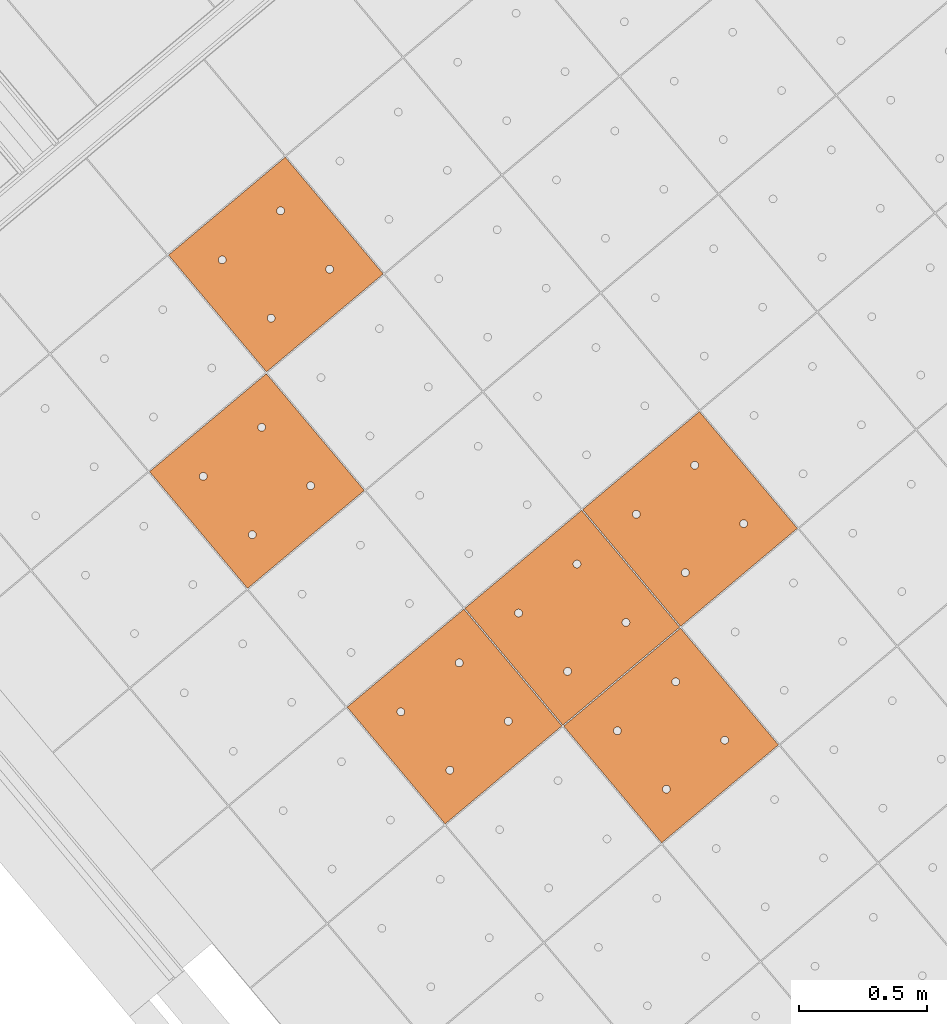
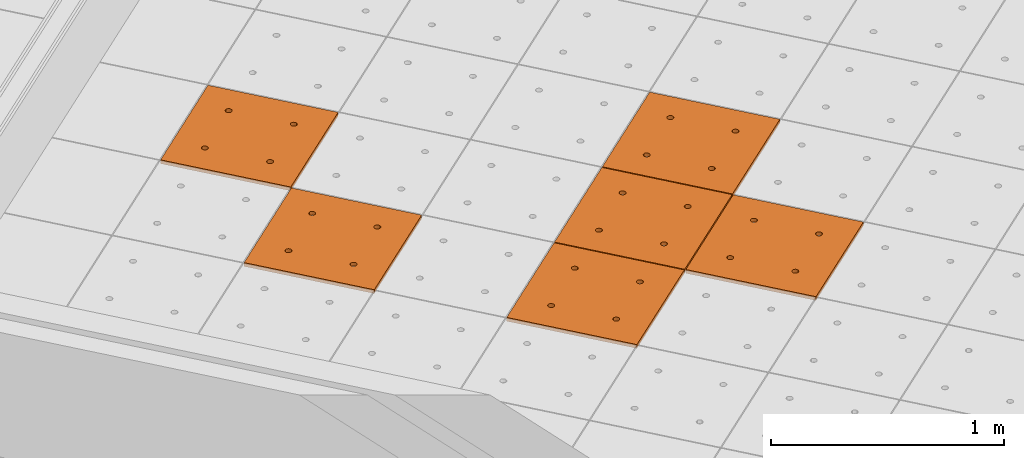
# One storey, part 129 of 338: 6 proxies, 1 element without a shape of its own.
"""IFC2X3 building model written with IfcOpenShell, lengths in millimetres."""

from ifc_helpers import new_model, entity, si_unit, converted_unit, derived_unit, money_unit, direction, frame, origin_with_axes, place, context, subcontext, project, spatial, faceted_brep, source, transform, mapped, material, type_object, type_shapes, element, aggregate, save


model = new_model("IFC2X3")

# Units and contexts
model_context = context("Model", 3, precision=0.01, world=origin_with_axes(), true_north=direction((0.0, 1.0)))
plan_context = context("Plan", 3, precision=0.01, world=origin_with_axes(), true_north=direction((0.0, 1.0)))
body_context = subcontext(model_context, "Body", "Model", "MODEL_VIEW")
ifc_project = project(units=[si_unit("LENGTHUNIT", "METRE", prefix="MILLI"), si_unit("AREAUNIT", "SQUARE_METRE"), si_unit("VOLUMEUNIT", "CUBIC_METRE"), converted_unit("PLANEANGLEUNIT", "DEGREE", entity("IfcPlaneAngleMeasure", 0.0174532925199), si_unit("PLANEANGLEUNIT", "RADIAN"), dimensions=[0, 0, 0, 0, 0, 0, 0]), money_unit("EUR"), converted_unit("TIMEUNIT", "Year", entity("IfcTimeMeasure", 31556926.0), si_unit("TIMEUNIT", "SECOND"), dimensions=[0, 0, 1, 0, 0, 0, 0]), si_unit("MASSUNIT", "GRAM", prefix="KILO"), si_unit("THERMODYNAMICTEMPERATUREUNIT", "DEGREE_CELSIUS"), si_unit("LUMINOUSINTENSITYUNIT", "LUMEN"), si_unit("ENERGYUNIT", "JOULE", prefix="MEGA"), derived_unit("THERMALCONDUCTANCEUNIT", [(si_unit("POWERUNIT", "WATT"), 1), (si_unit("LENGTHUNIT", "METRE"), -1), (si_unit("THERMODYNAMICTEMPERATUREUNIT", "KELVIN"), -1)]), derived_unit("SPECIFICHEATCAPACITYUNIT", [(si_unit("ENERGYUNIT", "JOULE"), 1), (si_unit("MASSUNIT", "GRAM", prefix="KILO"), -1), (si_unit("THERMODYNAMICTEMPERATUREUNIT", "KELVIN"), -1)]), derived_unit("MASSDENSITYUNIT", [(si_unit("MASSUNIT", "GRAM", prefix="KILO"), 1), (si_unit("VOLUMEUNIT", "CUBIC_METRE"), -1)])], contexts=[model_context, plan_context])

# Site, building, storey
site_placement = place(None, origin_with_axes())
site = spatial("IfcSite", under=ifc_project, at=site_placement, Name="Fortuinstraat Woensdrecht", CompositionType="ELEMENT")
building_placement = place(site_placement, origin_with_axes())
building = spatial("IfcBuilding", under=site, at=building_placement, Name="IKC Fortuna", CompositionType="ELEMENT")
storey_placement = place(building_placement, origin_with_axes())
storey = spatial("IfcBuildingStorey", under=building, at=storey_placement, Name="00 begane grond", CompositionType="ELEMENT", Elevation=0.0)

# Covering, proxies
covering_type = type_object("IfcCoveringType", Name="Curtain Wall Type", PredefinedType="CEILING")
covering_placement = place(storey_placement, frame((15150.6418133, -6622.13986243, 4660.0), z_axis=(0.0, 0.0, 1.0), x_axis=(1.0, 0.0, 0.0)))
covering = element("IfcCovering", 1, at=covering_placement, inside=storey, type_object=covering_type, Name="45_Plafondafwerking_P01", PredefinedType="CEILING")
ifc_material = material(Name="Gipsplaat")
building_element_proxy_type = type_object("IfcBuildingElementProxyType", Name="Main Panel 600 x 600 x 20", PredefinedType="NOTDEFINED")
shared_shape = source(origin_with_axes(), body_context, "Body", "Brep", [
    faceted_brep([(2.49999999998, 2.49999999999, -10.0), (300.0, 2.49999999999, -10.0), (300.0, 2.49999999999, 10.0), (2.49999999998, 2.49999999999, 10.0), (2.49999999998, 300.0, -10.0), (2.49999999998, 597.5, -10.0), (300.0, 597.5, -10.0), (597.5, 597.5, -10.0), (597.5, 300.0, -10.0), (597.5, 2.49999999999, -10.0), (166.25, 450.06232995, -10.0), (165.79423259, 452.64711538, -10.0), (164.896546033, 455.11348892, -10.0), (163.58421608, 457.38651108, -10.0), (161.897117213, 459.39711721, -10.0), (159.886511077, 461.08421608, -10.0), (157.613488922, 462.39654603, -10.0), (155.147115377, 463.29423259, -10.0), (152.562329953, 463.75, -10.0), (149.937670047, 463.75, -10.0), (147.352884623, 463.29423259, -10.0), (144.886511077, 462.39654603, -10.0), (142.613488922, 461.08421608, -10.0), (140.602882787, 459.39711721, -10.0), (138.91578392, 457.38651108, -10.0), (137.603453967, 455.11348892, -10.0), (136.705767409, 452.64711538, -10.0), (136.25, 450.06232995, -10.0), (136.25, 448.75, -10.0), (136.25, 447.43767005, -10.0), (136.705767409, 444.85288462, -10.0), (137.603453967, 442.38651108, -10.0), (138.91578392, 440.11348892, -10.0), (140.602882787, 438.10288279, -10.0), (142.613488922, 436.41578392, -10.0), (144.886511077, 435.10345397, -10.0), (147.352884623, 434.20576741, -10.0), (149.937670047, 433.75, -10.0), (152.562329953, 433.75, -10.0), (155.147115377, 434.20576741, -10.0), (157.613488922, 435.10345397, -10.0), (159.886511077, 436.41578392, -10.0), (161.897117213, 438.10288279, -10.0), (163.58421608, 440.11348892, -10.0), (164.896546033, 442.38651108, -10.0), (165.79423259, 444.85288462, -10.0), (166.25, 447.43767005, -10.0), (463.75, 450.06232995, -10.0), (463.29423259, 452.64711538, -10.0), (462.396546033, 455.11348892, -10.0), (461.08421608, 457.38651108, -10.0), (459.397117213, 459.39711721, -10.0), (457.386511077, 461.08421608, -10.0), (455.113488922, 462.39654603, -10.0), (452.647115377, 463.29423259, -10.0), (450.062329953, 463.75, -10.0), (447.437670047, 463.75, -10.0), (444.852884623, 463.29423259, -10.0), (442.386511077, 462.39654603, -10.0), (440.113488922, 461.08421608, -10.0), (438.102882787, 459.39711721, -10.0), (436.41578392, 457.38651108, -10.0), (435.103453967, 455.11348892, -10.0), (434.205767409, 452.64711538, -10.0), (433.75, 450.06232995, -10.0), (433.75, 448.75, -10.0), (433.75, 447.43767005, -10.0), (434.205767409, 444.85288462, -10.0), (435.103453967, 442.38651108, -10.0), (436.41578392, 440.11348892, -10.0), (438.102882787, 438.10288279, -10.0), (440.113488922, 436.41578392, -10.0), (442.386511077, 435.10345397, -10.0), (444.852884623, 434.20576741, -10.0), (447.437670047, 433.75, -10.0), (450.062329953, 433.75, -10.0), (452.647115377, 434.20576741, -10.0), (455.113488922, 435.10345397, -10.0), (457.386511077, 436.41578392, -10.0), (459.397117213, 438.10288279, -10.0), (461.08421608, 440.11348892, -10.0), (462.396546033, 442.38651108, -10.0), (463.29423259, 444.85288462, -10.0), (463.75, 447.43767005, -10.0), (463.75, 152.56232995, -10.0), (463.29423259, 155.14711538, -10.0), (462.396546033, 157.61348892, -10.0), (461.08421608, 159.88651108, -10.0), (459.397117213, 161.89711721, -10.0), (457.386511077, 163.58421608, -10.0), (455.113488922, 164.89654603, -10.0), (452.647115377, 165.79423259, -10.0), (450.062329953, 166.25, -10.0), (447.437670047, 166.25, -10.0), (444.852884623, 165.79423259, -10.0), (442.386511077, 164.89654603, -10.0), (440.113488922, 163.58421608, -10.0), (438.102882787, 161.89711721, -10.0), (436.41578392, 159.88651108, -10.0), (435.103453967, 157.61348892, -10.0), (434.205767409, 155.14711538, -10.0), (433.75, 152.56232995, -10.0), (433.75, 151.25, -10.0), (433.75, 149.93767005, -10.0), (434.205767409, 147.35288462, -10.0), (435.103453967, 144.88651108, -10.0), (436.41578392, 142.61348892, -10.0), (438.102882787, 140.60288279, -10.0), (440.113488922, 138.91578392, -10.0), (442.386511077, 137.60345397, -10.0), (444.852884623, 136.70576741, -10.0), (447.437670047, 136.25, -10.0), (450.062329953, 136.25, -10.0), (452.647115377, 136.70576741, -10.0), (455.113488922, 137.60345397, -10.0), (457.386511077, 138.91578392, -10.0), (459.397117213, 140.60288279, -10.0), (461.08421608, 142.61348892, -10.0), (462.396546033, 144.88651108, -10.0), (463.29423259, 147.35288462, -10.0), (463.75, 149.93767005, -10.0), (166.25, 152.56232995, -10.0), (165.79423259, 155.14711538, -10.0), (164.896546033, 157.61348892, -10.0), (163.58421608, 159.88651108, -10.0), (161.897117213, 161.89711721, -10.0), (159.886511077, 163.58421608, -10.0), (157.613488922, 164.89654603, -10.0), (155.147115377, 165.79423259, -10.0), (152.562329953, 166.25, -10.0), (149.937670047, 166.25, -10.0), (147.352884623, 165.79423259, -10.0), (144.886511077, 164.89654603, -10.0), (142.613488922, 163.58421608, -10.0), (140.602882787, 161.89711721, -10.0), (138.91578392, 159.88651108, -10.0), (137.603453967, 157.61348892, -10.0), (136.705767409, 155.14711538, -10.0), (136.25, 152.56232995, -10.0), (136.25, 151.25, -10.0), (136.25, 149.93767005, -10.0), (136.705767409, 147.35288462, -10.0), (137.603453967, 144.88651108, -10.0), (138.91578392, 142.61348892, -10.0), (140.602882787, 140.60288279, -10.0), (142.613488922, 138.91578392, -10.0), (144.886511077, 137.60345397, -10.0), (147.352884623, 136.70576741, -10.0), (149.937670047, 136.25, -10.0), (152.562329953, 136.25, -10.0), (155.147115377, 136.70576741, -10.0), (157.613488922, 137.60345397, -10.0), (159.886511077, 138.91578392, -10.0), (161.897117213, 140.60288279, -10.0), (163.58421608, 142.61348892, -10.0), (164.896546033, 144.88651108, -10.0), (165.79423259, 147.35288462, -10.0), (166.25, 149.93767005, -10.0), (597.5, 2.49999999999, 10.0), (597.5, 300.0, 10.0), (597.5, 597.5, 10.0), (300.0, 597.5, 10.0), (2.49999999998, 597.5, 10.0), (2.49999999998, 300.0, 10.0), (166.25, 450.06232995, 10.0), (166.25, 447.43767005, 10.0), (165.79423259, 444.85288462, 10.0), (164.896546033, 442.38651108, 10.0), (163.58421608, 440.11348892, 10.0), (161.897117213, 438.10288279, 10.0), (159.886511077, 436.41578392, 10.0), (157.613488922, 435.10345397, 10.0), (155.147115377, 434.20576741, 10.0), (152.562329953, 433.75, 10.0), (149.937670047, 433.75, 10.0), (147.352884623, 434.20576741, 10.0), (144.886511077, 435.10345397, 10.0), (142.613488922, 436.41578392, 10.0), (140.602882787, 438.10288279, 10.0), (138.91578392, 440.11348892, 10.0), (137.603453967, 442.38651108, 10.0), (136.705767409, 444.85288462, 10.0), (136.25, 447.43767005, 10.0), (136.25, 448.75, 10.0), (136.25, 450.06232995, 10.0), (136.705767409, 452.64711538, 10.0), (137.603453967, 455.11348892, 10.0), (138.91578392, 457.38651108, 10.0), (140.602882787, 459.39711721, 10.0), (142.613488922, 461.08421608, 10.0), (144.886511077, 462.39654603, 10.0), (147.352884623, 463.29423259, 10.0), (149.937670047, 463.75, 10.0), (152.562329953, 463.75, 10.0), (155.147115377, 463.29423259, 10.0), (157.613488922, 462.39654603, 10.0), (159.886511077, 461.08421608, 10.0), (161.897117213, 459.39711721, 10.0), (163.58421608, 457.38651108, 10.0), (164.896546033, 455.11348892, 10.0), (165.79423259, 452.64711538, 10.0), (463.75, 450.06232995, 10.0), (463.75, 447.43767005, 10.0), (463.29423259, 444.85288462, 10.0), (462.396546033, 442.38651108, 10.0), (461.08421608, 440.11348892, 10.0), (459.397117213, 438.10288279, 10.0), (457.386511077, 436.41578392, 10.0), (455.113488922, 435.10345397, 10.0), (452.647115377, 434.20576741, 10.0), (450.062329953, 433.75, 10.0), (447.437670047, 433.75, 10.0), (444.852884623, 434.20576741, 10.0), (442.386511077, 435.10345397, 10.0), (440.113488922, 436.41578392, 10.0), (438.102882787, 438.10288279, 10.0), (436.41578392, 440.11348892, 10.0), (435.103453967, 442.38651108, 10.0), (434.205767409, 444.85288462, 10.0), (433.75, 447.43767005, 10.0), (433.75, 448.75, 10.0), (433.75, 450.06232995, 10.0), (434.205767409, 452.64711538, 10.0), (435.103453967, 455.11348892, 10.0), (436.41578392, 457.38651108, 10.0), (438.102882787, 459.39711721, 10.0), (440.113488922, 461.08421608, 10.0), (442.386511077, 462.39654603, 10.0), (444.852884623, 463.29423259, 10.0), (447.437670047, 463.75, 10.0), (450.062329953, 463.75, 10.0), (452.647115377, 463.29423259, 10.0), (455.113488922, 462.39654603, 10.0), (457.386511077, 461.08421608, 10.0), (459.397117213, 459.39711721, 10.0), (461.08421608, 457.38651108, 10.0), (462.396546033, 455.11348892, 10.0), (463.29423259, 452.64711538, 10.0), (463.75, 152.56232995, 10.0), (463.75, 149.93767005, 10.0), (463.29423259, 147.35288462, 10.0), (462.396546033, 144.88651108, 10.0), (461.08421608, 142.61348892, 10.0), (459.397117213, 140.60288279, 10.0), (457.386511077, 138.91578392, 10.0), (455.113488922, 137.60345397, 10.0), (452.647115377, 136.70576741, 10.0), (450.062329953, 136.25, 10.0), (447.437670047, 136.25, 10.0), (444.852884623, 136.70576741, 10.0), (442.386511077, 137.60345397, 10.0), (440.113488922, 138.91578392, 10.0), (438.102882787, 140.60288279, 10.0), (436.41578392, 142.61348892, 10.0), (435.103453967, 144.88651108, 10.0), (434.205767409, 147.35288462, 10.0), (433.75, 149.93767005, 10.0), (433.75, 151.25, 10.0), (433.75, 152.56232995, 10.0), (434.205767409, 155.14711538, 10.0), (435.103453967, 157.61348892, 10.0), (436.41578392, 159.88651108, 10.0), (438.102882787, 161.89711721, 10.0), (440.113488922, 163.58421608, 10.0), (442.386511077, 164.89654603, 10.0), (444.852884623, 165.79423259, 10.0), (447.437670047, 166.25, 10.0), (450.062329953, 166.25, 10.0), (452.647115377, 165.79423259, 10.0), (455.113488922, 164.89654603, 10.0), (457.386511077, 163.58421608, 10.0), (459.397117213, 161.89711721, 10.0), (461.08421608, 159.88651108, 10.0), (462.396546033, 157.61348892, 10.0), (463.29423259, 155.14711538, 10.0), (166.25, 152.56232995, 10.0), (166.25, 149.93767005, 10.0), (165.79423259, 147.35288462, 10.0), (164.896546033, 144.88651108, 10.0), (163.58421608, 142.61348892, 10.0), (161.897117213, 140.60288279, 10.0), (159.886511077, 138.91578392, 10.0), (157.613488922, 137.60345397, 10.0), (155.147115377, 136.70576741, 10.0), (152.562329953, 136.25, 10.0), (149.937670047, 136.25, 10.0), (147.352884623, 136.70576741, 10.0), (144.886511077, 137.60345397, 10.0), (142.613488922, 138.91578392, 10.0), (140.602882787, 140.60288279, 10.0), (138.91578392, 142.61348892, 10.0), (137.603453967, 144.88651108, 10.0), (136.705767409, 147.35288462, 10.0), (136.25, 149.93767005, 10.0), (136.25, 151.25, 10.0), (136.25, 152.56232995, 10.0), (136.705767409, 155.14711538, 10.0), (137.603453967, 157.61348892, 10.0), (138.91578392, 159.88651108, 10.0), (140.602882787, 161.89711721, 10.0), (142.613488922, 163.58421608, 10.0), (144.886511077, 164.89654603, 10.0), (147.352884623, 165.79423259, 10.0), (149.937670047, 166.25, 10.0), (152.562329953, 166.25, 10.0), (155.147115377, 165.79423259, 10.0), (157.613488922, 164.89654603, 10.0), (159.886511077, 163.58421608, 10.0), (161.897117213, 161.89711721, 10.0), (163.58421608, 159.88651108, 10.0), (164.896546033, 157.61348892, 10.0), (165.79423259, 155.14711538, 10.0)], [[[0, 1, 2, 3]], [[0, 4, 5, 6, 7, 8, 9, 1], [10, 11, 12, 13, 14, 15, 16, 17, 18, 19, 20, 21, 22, 23, 24, 25, 26, 27, 28, 29, 30, 31, 32, 33, 34, 35, 36, 37, 38, 39, 40, 41, 42, 43, 44, 45, 46], [47, 48, 49, 50, 51, 52, 53, 54, 55, 56, 57, 58, 59, 60, 61, 62, 63, 64, 65, 66, 67, 68, 69, 70, 71, 72, 73, 74, 75, 76, 77, 78, 79, 80, 81, 82, 83], [84, 85, 86, 87, 88, 89, 90, 91, 92, 93, 94, 95, 96, 97, 98, 99, 100, 101, 102, 103, 104, 105, 106, 107, 108, 109, 110, 111, 112, 113, 114, 115, 116, 117, 118, 119, 120], [121, 122, 123, 124, 125, 126, 127, 128, 129, 130, 131, 132, 133, 134, 135, 136, 137, 138, 139, 140, 141, 142, 143, 144, 145, 146, 147, 148, 149, 150, 151, 152, 153, 154, 155, 156, 157]], [[1, 9, 158, 2]], [[3, 2, 158, 159, 160, 161, 162, 163], [164, 165, 166, 167, 168, 169, 170, 171, 172, 173, 174, 175, 176, 177, 178, 179, 180, 181, 182, 183, 184, 185, 186, 187, 188, 189, 190, 191, 192, 193, 194, 195, 196, 197, 198, 199, 200], [201, 202, 203, 204, 205, 206, 207, 208, 209, 210, 211, 212, 213, 214, 215, 216, 217, 218, 219, 220, 221, 222, 223, 224, 225, 226, 227, 228, 229, 230, 231, 232, 233, 234, 235, 236, 237], [238, 239, 240, 241, 242, 243, 244, 245, 246, 247, 248, 249, 250, 251, 252, 253, 254, 255, 256, 257, 258, 259, 260, 261, 262, 263, 264, 265, 266, 267, 268, 269, 270, 271, 272, 273, 274], [275, 276, 277, 278, 279, 280, 281, 282, 283, 284, 285, 286, 287, 288, 289, 290, 291, 292, 293, 294, 295, 296, 297, 298, 299, 300, 301, 302, 303, 304, 305, 306, 307, 308, 309, 310, 311]], [[4, 0, 3, 163]], [[5, 4, 163, 162]], [[6, 5, 162, 161]], [[7, 6, 161, 160]], [[8, 7, 160, 159]], [[9, 8, 159, 158]], [[11, 10, 164, 200]], [[12, 11, 200, 199]], [[13, 12, 199, 198]], [[14, 13, 198, 197]], [[15, 14, 197, 196]], [[16, 15, 196, 195]], [[17, 16, 195, 194]], [[18, 17, 194, 193]], [[19, 18, 193, 192]], [[20, 19, 192, 191]], [[21, 20, 191, 190]], [[22, 21, 190, 189]], [[23, 22, 189, 188]], [[24, 23, 188, 187]], [[25, 24, 187, 186]], [[26, 25, 186, 185]], [[27, 26, 185, 184]], [[28, 27, 184, 183]], [[29, 28, 183, 182]], [[30, 29, 182, 181]], [[31, 30, 181, 180]], [[32, 31, 180, 179]], [[33, 32, 179, 178]], [[34, 33, 178, 177]], [[35, 34, 177, 176]], [[36, 35, 176, 175]], [[37, 36, 175, 174]], [[38, 37, 174, 173]], [[39, 38, 173, 172]], [[40, 39, 172, 171]], [[41, 40, 171, 170]], [[42, 41, 170, 169]], [[43, 42, 169, 168]], [[44, 43, 168, 167]], [[45, 44, 167, 166]], [[46, 45, 166, 165]], [[10, 46, 165, 164]], [[48, 47, 201, 237]], [[49, 48, 237, 236]], [[50, 49, 236, 235]], [[51, 50, 235, 234]], [[52, 51, 234, 233]], [[53, 52, 233, 232]], [[54, 53, 232, 231]], [[55, 54, 231, 230]], [[56, 55, 230, 229]], [[57, 56, 229, 228]], [[58, 57, 228, 227]], [[59, 58, 227, 226]], [[60, 59, 226, 225]], [[61, 60, 225, 224]], [[62, 61, 224, 223]], [[63, 62, 223, 222]], [[64, 63, 222, 221]], [[65, 64, 221, 220]], [[66, 65, 220, 219]], [[67, 66, 219, 218]], [[68, 67, 218, 217]], [[69, 68, 217, 216]], [[70, 69, 216, 215]], [[71, 70, 215, 214]], [[72, 71, 214, 213]], [[73, 72, 213, 212]], [[74, 73, 212, 211]], [[75, 74, 211, 210]], [[76, 75, 210, 209]], [[77, 76, 209, 208]], [[78, 77, 208, 207]], [[79, 78, 207, 206]], [[80, 79, 206, 205]], [[81, 80, 205, 204]], [[82, 81, 204, 203]], [[83, 82, 203, 202]], [[47, 83, 202, 201]], [[85, 84, 238, 274]], [[86, 85, 274, 273]], [[87, 86, 273, 272]], [[88, 87, 272, 271]], [[89, 88, 271, 270]], [[90, 89, 270, 269]], [[91, 90, 269, 268]], [[92, 91, 268, 267]], [[93, 92, 267, 266]], [[94, 93, 266, 265]], [[95, 94, 265, 264]], [[96, 95, 264, 263]], [[97, 96, 263, 262]], [[98, 97, 262, 261]], [[99, 98, 261, 260]], [[100, 99, 260, 259]], [[101, 100, 259, 258]], [[102, 101, 258, 257]], [[103, 102, 257, 256]], [[104, 103, 256, 255]], [[105, 104, 255, 254]], [[106, 105, 254, 253]], [[107, 106, 253, 252]], [[108, 107, 252, 251]], [[109, 108, 251, 250]], [[110, 109, 250, 249]], [[111, 110, 249, 248]], [[112, 111, 248, 247]], [[113, 112, 247, 246]], [[114, 113, 246, 245]], [[115, 114, 245, 244]], [[116, 115, 244, 243]], [[117, 116, 243, 242]], [[118, 117, 242, 241]], [[119, 118, 241, 240]], [[120, 119, 240, 239]], [[84, 120, 239, 238]], [[122, 121, 275, 311]], [[123, 122, 311, 310]], [[124, 123, 310, 309]], [[125, 124, 309, 308]], [[126, 125, 308, 307]], [[127, 126, 307, 306]], [[128, 127, 306, 305]], [[129, 128, 305, 304]], [[130, 129, 304, 303]], [[131, 130, 303, 302]], [[132, 131, 302, 301]], [[133, 132, 301, 300]], [[134, 133, 300, 299]], [[135, 134, 299, 298]], [[136, 135, 298, 297]], [[137, 136, 297, 296]], [[138, 137, 296, 295]], [[139, 138, 295, 294]], [[140, 139, 294, 293]], [[141, 140, 293, 292]], [[142, 141, 292, 291]], [[143, 142, 291, 290]], [[144, 143, 290, 289]], [[145, 144, 289, 288]], [[146, 145, 288, 287]], [[147, 146, 287, 286]], [[148, 147, 286, 285]], [[149, 148, 285, 284]], [[150, 149, 284, 283]], [[151, 150, 283, 282]], [[152, 151, 282, 281]], [[153, 152, 281, 280]], [[154, 153, 280, 279]], [[155, 154, 279, 278]], [[156, 155, 278, 277]], [[157, 156, 277, 276]], [[121, 157, 276, 275]]]),
])
type_shapes(building_element_proxy_type, [shared_shape])
proxy_1_placement = place(covering_placement, frame((-3710.31574568, -4764.66562478, 1.97175609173e-10), z_axis=(0.0, 0.0, 1.0), x_axis=(1.0, 0.0, 0.0)))
proxy_1 = element("IfcBuildingElementProxy", 2, at=proxy_1_placement, type_object=building_element_proxy_type, material=ifc_material, Name="__600x605 Rockfon Krios", context=body_context, shape_type="MappedRepresentation", body=[
    mapped(shared_shape, transform((36.9769427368, 422.649625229, 0.0), x_axis=(-0.766044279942, -0.642787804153, 0.0), y_axis=(0.642787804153, -0.766044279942, 0.0), z_axis=(0.0, 0.0, 1.0))),
])
proxy_2_placement = place(covering_placement, frame((-3636.36186021, -3919.36637433, 1.7763568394e-10), z_axis=(0.0, 0.0, 1.0), x_axis=(1.0, 0.0, 0.0)))
proxy_2 = element("IfcBuildingElementProxy", 3, at=proxy_2_placement, type_object=building_element_proxy_type, material=ifc_material, Name="__600x610 Rockfon Krios", context=body_context, shape_type="MappedRepresentation", body=[
    mapped(shared_shape, transform((36.9769427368, 422.649625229, 0.0), x_axis=(-0.766044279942, -0.642787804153, 0.0), y_axis=(0.642787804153, -0.766044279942, 0.0), z_axis=(0.0, 0.0, 1.0))),
])
proxy_3_placement = place(covering_placement, frame((-2093.67113024, -5757.87264619, 1.7763568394e-10), z_axis=(0.0, 0.0, 1.0), x_axis=(1.0, 0.0, 0.0)))
proxy_3 = element("IfcBuildingElementProxy", 4, at=proxy_3_placement, type_object=building_element_proxy_type, material=ifc_material, Name="__600x654 Rockfon Krios", context=body_context, shape_type="MappedRepresentation", body=[
    mapped(shared_shape, transform((36.9769427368, 422.649625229, 0.0), x_axis=(-0.766044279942, -0.642787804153, 0.0), y_axis=(0.642787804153, -0.766044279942, 0.0), z_axis=(0.0, 0.0, 1.0))),
])
proxy_4_placement = place(covering_placement, frame((-2479.34381274, -5298.24607822, 1.7763568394e-10), z_axis=(0.0, 0.0, 1.0), x_axis=(1.0, 0.0, 0.0)))
proxy_4 = element("IfcBuildingElementProxy", 5, at=proxy_4_placement, type_object=building_element_proxy_type, material=ifc_material, Name="__600x656 Rockfon Krios", context=body_context, shape_type="MappedRepresentation", body=[
    mapped(shared_shape, transform((36.9769427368, 422.649625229, 0.0), x_axis=(-0.766044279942, -0.642787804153, 0.0), y_axis=(0.642787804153, -0.766044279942, 0.0), z_axis=(0.0, 0.0, 1.0))),
])
proxy_5_placement = place(covering_placement, frame((-2938.9703807, -5683.91876071, 1.97175609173e-10), z_axis=(0.0, 0.0, 1.0), x_axis=(1.0, 0.0, 0.0)))
proxy_5 = element("IfcBuildingElementProxy", 6, at=proxy_5_placement, type_object=building_element_proxy_type, material=ifc_material, Name="__600x686 Rockfon Krios", context=body_context, shape_type="MappedRepresentation", body=[
    mapped(shared_shape, transform((36.9769427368, 422.649625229, 0.0), x_axis=(-0.766044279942, -0.642787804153, 0.0), y_axis=(0.642787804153, -0.766044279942, 0.0), z_axis=(0.0, 0.0, 1.0))),
])
proxy_6_placement = place(covering_placement, frame((-2019.71724477, -4912.57339573, 1.58095758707e-10), z_axis=(0.0, 0.0, 1.0), x_axis=(1.0, 0.0, 0.0)))
proxy_6 = element("IfcBuildingElementProxy", 7, at=proxy_6_placement, type_object=building_element_proxy_type, material=ifc_material, Name="__600x754 Rockfon Krios", context=body_context, shape_type="MappedRepresentation", body=[
    mapped(shared_shape, transform((36.9769427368, 422.649625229, 0.0), x_axis=(-0.766044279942, -0.642787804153, 0.0), y_axis=(0.642787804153, -0.766044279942, 0.0), z_axis=(0.0, 0.0, 1.0))),
])
aggregate(covering, [proxy_1, proxy_2, proxy_3, proxy_4, proxy_5, proxy_6])

save(model, "model.ifc")
